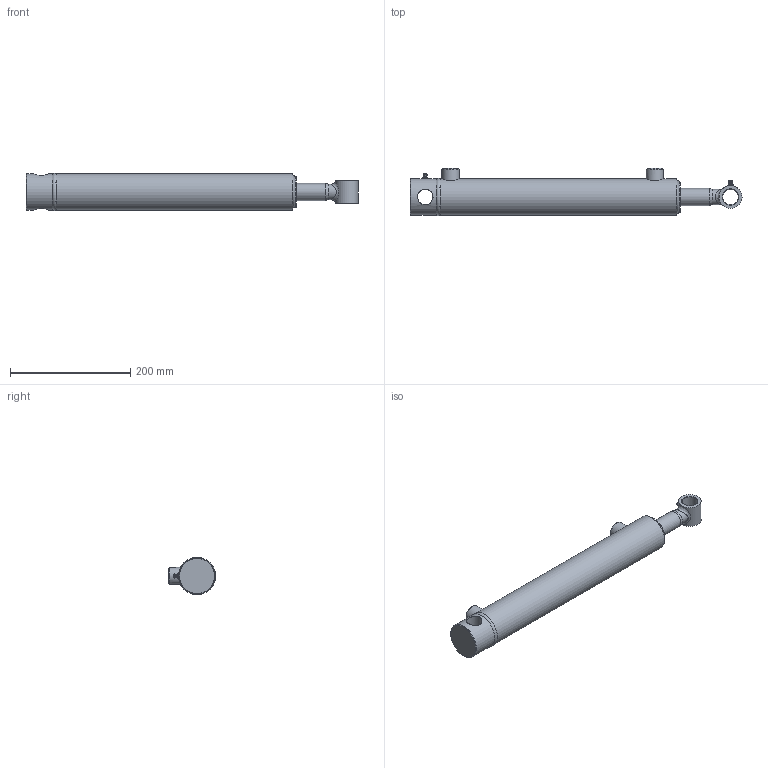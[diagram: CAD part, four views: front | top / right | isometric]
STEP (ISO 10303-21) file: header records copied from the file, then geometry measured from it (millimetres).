
FILE_DESCRIPTION(/* description */ ('Ø2.00 X 12.00 DA'),/* implementation_level */ '2;1');
FILE_NAME(/* name */ 'T:\Aces\Jobs\2881912985404f3a844809c7613848ea\result.stp',/* time_stamp */ '2023-10-02T21:14:23+00:00',/* author */ ('AJC'),/* organization */ ('PRINCE MANUFACTURING'),/* preprocessor_version */ 'ST-DEVELOPER v18.1',/* originating_system */ 'Autodesk Inventor 2022',/* authorisation */ '');
FILE_SCHEMA (('AUTOMOTIVE_DESIGN { 1 0 10303 214 3 1 1 }'));
Length unit declared in the file: inch
Products named in the file (21): PC2012011A00-200XYXA; 0611-XYSF000-15600; 0511-T-15600; 161100184; 200015602; 06Weld1_C360; 0711-P-075; 220000208; 0811-G-113; 230025102; 230025002; 240000018; 240061326; 240000326; 0205A-FAW0-17800XA; 0105A-FAW0-17800; 210400807; 02Weld_C360; 240037071; 250001216; 270010020
Assembly tree (22 placements, depth 3):
  PC2012011A00-200XYXA
    0611-XYSF000-15600
      0511-T-15600
      161100184
      200015602  x2
      06Weld1_C360
    0711-P-075
    220000208
    0811-G-113
    230025102
    230025002
    240000018
    240061326
    240000326
    0205A-FAW0-17800XA
      0105A-FAW0-17800
      210400807
      02Weld_C360
    240037071
    250001216
    270010020  x2
Bounding box: 552.45 x 78.61 x 61.85 mm (x, y, z)
Volume: 867732.4 mm3; surface area: 274004.5 mm2
Topology: 24 solids, 24 shells, 404 faces, 950 edges, 616 vertices
Faces by surface type: plane 104, torus 81, cylinder 77, cone 76, bspline 62, sphere 4
Full cylindrical faces by diameter (mm): 2.143 x4, 5.359 x2, 6.35 x2, 9.525 x2, 17.323 x3, 18.237 x1, 18.288 x1, 18.999 x1, 19.126 x1, 21.615 x1, 25.4 x1, 25.781 x2, 28.575 x4, 28.651 x2, 29.21 x2, 31.598 x1, 34.29 x1, 34.9 x2, 34.95 x1, 35.56 x1, 38.1 x2, 41.377 x2, 42.113 x2, 47.231 x2, 47.371 x1, 47.396 x4, 50.186 x2, 50.571 x6, 50.648 x1, 50.8 x4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
Entity records: 27138 total; most frequent: CARTESIAN_POINT 17850, DIRECTION 1756, ORIENTED_EDGE 1698, EDGE_CURVE 849, AXIS2_PLACEMENT_3D 777, VERTEX_POINT 555, CIRCLE 432, EDGE_LOOP 426
